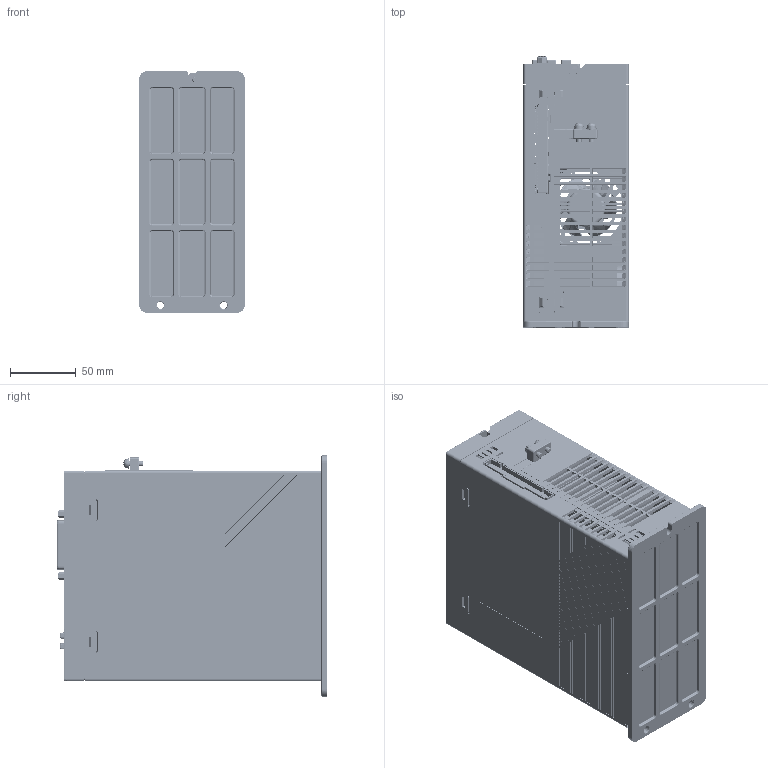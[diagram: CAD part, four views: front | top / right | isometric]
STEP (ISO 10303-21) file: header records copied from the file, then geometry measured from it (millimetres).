
FILE_DESCRIPTION((''),'2;1');
FILE_NAME('PRT0001','2026-01-21T18:36:06',('wuyh130'),(''),'CREO PARAMETRIC BY PTC INC, 2021063','CREO PARAMETRIC BY PTC INC, 2021063','');
FILE_SCHEMA(('AUTOMOTIVE_DESIGN { 1 0 10303 214 1 1 1 1 }'));
Products named in the file (1): PRT0001
Bounding box: 80 x 205.46 x 183 mm (x, y, z)
Surface area: 513874 mm2 (no closed solid volume)
Topology: 0 solids, 204 shells, 7531 faces, 24690 edges, 17085 vertices
Faces by surface type: plane 4255, cylinder 2004, bspline 491, cone 411, torus 254, sphere 70, extrusion 42, revolution 4
Entity records: 338307 total; most frequent: CARTESIAN_POINT 102565, ORIENTED_EDGE 42365, DIRECTION 38517, EDGE_CURVE 24606, VERTEX_POINT 17084, VECTOR 16786, LINE 16744, AXIS2_PLACEMENT_3D 10862
